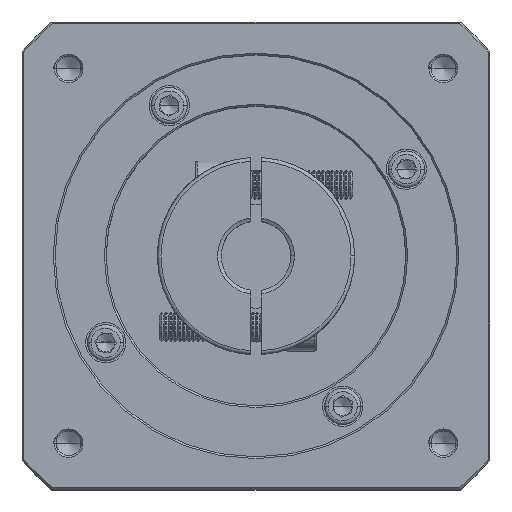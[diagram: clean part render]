
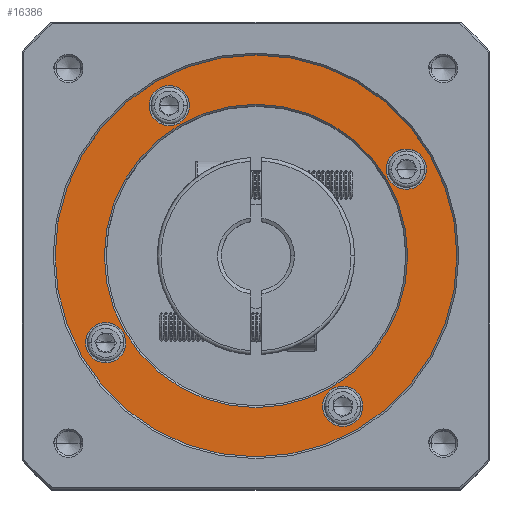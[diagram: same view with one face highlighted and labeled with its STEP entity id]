
A CAD part, top view. The second image highlights one B-rep face of the part: STEP entity #16386.
In plain terms, the highlighted planar face has unit normal (0, 0, 1).
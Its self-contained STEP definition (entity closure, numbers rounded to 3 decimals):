
#1256 = AXIS2_PLACEMENT_3D ( 'NONE', #20376, #86103, #29919 ) ;
#4469 = CARTESIAN_POINT ( 'NONE',  ( 91.927, 102.612, 75.911 ) ) ;
#4851 = CIRCLE ( 'NONE', #47583, 5.5 ) ;
#5516 = DIRECTION ( 'NONE',  ( 1., 0., 0. ) ) ;
#6007 = PLANE ( 'NONE',  #66882 ) ;
#6110 = ORIENTED_EDGE ( 'NONE', *, *, #116574, .T. ) ;
#6603 = ORIENTED_EDGE ( 'NONE', *, *, #67644, .T. ) ;
#8967 = CARTESIAN_POINT ( 'NONE',  ( 80.927, 102.612, 75.911 ) ) ;
#9175 = EDGE_LOOP ( 'NONE', ( #42292, #65851 ) ) ;
#9212 = EDGE_CURVE ( 'NONE', #17506, #23350, #20026, .T. ) ;
#10572 = EDGE_CURVE ( 'NONE', #102887, #36878, #61176, .T. ) ;
#10906 = AXIS2_PLACEMENT_3D ( 'NONE', #26588, #92148, #36014 ) ;
#11343 = FACE_BOUND ( 'NONE', #9175, .T. ) ;
#12413 = EDGE_CURVE ( 'NONE', #55793, #90963, #69289, .T. ) ;
#12597 = CIRCLE ( 'NONE', #120600, 55. ) ;
#13686 = CIRCLE ( 'NONE', #83461, 5.5 ) ;
#13951 = CIRCLE ( 'NONE', #40643, 41.5 ) ;
#15880 = DIRECTION ( 'NONE',  ( 0., 0., 1. ) ) ;
#16386 = ADVANCED_FACE ( 'NONE', ( #86276, #11343, #48147, #36401, #61236, #108231 ), #6007, .T. ) ;
#17506 = VERTEX_POINT ( 'NONE', #69029 ) ;
#18123 = DIRECTION ( 'NONE',  ( 0., 0., 1. ) ) ;
#19786 = CARTESIAN_POINT ( 'NONE',  ( 38.927, 184.884, 75.911 ) ) ;
#20026 = CIRCLE ( 'NONE', #62656, 5.5 ) ;
#20376 = CARTESIAN_POINT ( 'NONE',  ( 86.427, 102.612, 75.911 ) ) ;
#23350 = VERTEX_POINT ( 'NONE', #28005 ) ;
#24528 = EDGE_LOOP ( 'NONE', ( #59076, #85103 ) ) ;
#26588 = CARTESIAN_POINT ( 'NONE',  ( 86.427, 102.612, 75.911 ) ) ;
#26871 = VERTEX_POINT ( 'NONE', #40078 ) ;
#27560 = CIRCLE ( 'NONE', #95120, 5.5 ) ;
#28005 = CARTESIAN_POINT ( 'NONE',  ( 27.041, 119.998, 75.911 ) ) ;
#29293 = DIRECTION ( 'NONE',  ( 1., 0., 0. ) ) ;
#29919 = DIRECTION ( 'NONE',  ( 1., 0., 0. ) ) ;
#31385 = AXIS2_PLACEMENT_3D ( 'NONE', #41571, #107148, #50988 ) ;
#35140 = EDGE_LOOP ( 'NONE', ( #114747, #49532 ) ) ;
#36014 = DIRECTION ( 'NONE',  ( 1., 0., 0. ) ) ;
#36401 = FACE_BOUND ( 'NONE', #40548, .T. ) ;
#36878 = VERTEX_POINT ( 'NONE', #4469 ) ;
#37384 = DIRECTION ( 'NONE',  ( 0., 0., -1. ) ) ;
#40078 = CARTESIAN_POINT ( 'NONE',  ( 7.677, 143.748, 75.911 ) ) ;
#40548 = EDGE_LOOP ( 'NONE', ( #93121, #97895 ) ) ;
#40643 = AXIS2_PLACEMENT_3D ( 'NONE', #48398, #113951, #57818 ) ;
#41444 = DIRECTION ( 'NONE',  ( 0., 0., -1. ) ) ;
#41571 = CARTESIAN_POINT ( 'NONE',  ( 62.677, 143.748, 75.911 ) ) ;
#41927 = AXIS2_PLACEMENT_3D ( 'NONE', #110830, #54669, #120225 ) ;
#42292 = ORIENTED_EDGE ( 'NONE', *, *, #107759, .T. ) ;
#43429 = EDGE_LOOP ( 'NONE', ( #82813, #51161 ) ) ;
#43442 = CARTESIAN_POINT ( 'NONE',  ( 62.677, 102.248, 75.911 ) ) ;
#43559 = CARTESIAN_POINT ( 'NONE',  ( 103.813, 167.498, 75.911 ) ) ;
#46038 = EDGE_CURVE ( 'NONE', #72035, #79373, #4851, .T. ) ;
#47359 = CARTESIAN_POINT ( 'NONE',  ( 109.313, 167.498, 75.911 ) ) ;
#47583 = AXIS2_PLACEMENT_3D ( 'NONE', #107028, #50865, #116405 ) ;
#48147 = FACE_BOUND ( 'NONE', #24528, .T. ) ;
#48398 = CARTESIAN_POINT ( 'NONE',  ( 62.677, 143.748, 75.911 ) ) ;
#49165 = CARTESIAN_POINT ( 'NONE',  ( 117.677, 143.748, 75.911 ) ) ;
#49532 = ORIENTED_EDGE ( 'NONE', *, *, #9212, .T. ) ;
#50841 = EDGE_CURVE ( 'NONE', #23350, #17506, #13686, .T. ) ;
#50865 = DIRECTION ( 'NONE',  ( 0., 0., -1. ) ) ;
#50988 = DIRECTION ( 'NONE',  ( 1., 0., 0. ) ) ;
#51161 = ORIENTED_EDGE ( 'NONE', *, *, #102410, .T. ) ;
#53008 = DIRECTION ( 'NONE',  ( 1., 0., 0. ) ) ;
#54669 = DIRECTION ( 'NONE',  ( 0., 0., -1. ) ) ;
#55793 = VERTEX_POINT ( 'NONE', #94929 ) ;
#57818 = DIRECTION ( 'NONE',  ( 0., -1., 0. ) ) ;
#59076 = ORIENTED_EDGE ( 'NONE', *, *, #46038, .T. ) ;
#60939 = EDGE_CURVE ( 'NONE', #65111, #96005, #93263, .T. ) ;
#61176 = CIRCLE ( 'NONE', #10906, 5.5 ) ;
#61236 = FACE_BOUND ( 'NONE', #43429, .T. ) ;
#61760 = DIRECTION ( 'NONE',  ( 0., 0., -1. ) ) ;
#62656 = AXIS2_PLACEMENT_3D ( 'NONE', #117913, #61760, #5516 ) ;
#64765 = EDGE_LOOP ( 'NONE', ( #6110, #6603 ) ) ;
#65111 = VERTEX_POINT ( 'NONE', #72554 ) ;
#65851 = ORIENTED_EDGE ( 'NONE', *, *, #60939, .T. ) ;
#66882 = AXIS2_PLACEMENT_3D ( 'NONE', #72041, #15880, #81533 ) ;
#67644 = EDGE_CURVE ( 'NONE', #26871, #78108, #12597, .T. ) ;
#69029 = CARTESIAN_POINT ( 'NONE',  ( 16.041, 119.998, 75.911 ) ) ;
#69289 = CIRCLE ( 'NONE', #81904, 5.5 ) ;
#72035 = VERTEX_POINT ( 'NONE', #47359 ) ;
#72041 = CARTESIAN_POINT ( 'NONE',  ( 62.677, 143.748, 75.911 ) ) ;
#72554 = CARTESIAN_POINT ( 'NONE',  ( 62.677, 185.248, 75.911 ) ) ;
#73912 = EDGE_CURVE ( 'NONE', #79373, #72035, #27560, .T. ) ;
#74311 = CARTESIAN_POINT ( 'NONE',  ( 62.677, 143.748, 75.911 ) ) ;
#78108 = VERTEX_POINT ( 'NONE', #49165 ) ;
#79373 = VERTEX_POINT ( 'NONE', #89572 ) ;
#81533 = DIRECTION ( 'NONE',  ( 1., 0., 0. ) ) ;
#81904 = AXIS2_PLACEMENT_3D ( 'NONE', #93534, #37384, #102985 ) ;
#82813 = ORIENTED_EDGE ( 'NONE', *, *, #12413, .T. ) ;
#83461 = AXIS2_PLACEMENT_3D ( 'NONE', #97641, #41444, #107020 ) ;
#83755 = DIRECTION ( 'NONE',  ( 1., 0., 0. ) ) ;
#85103 = ORIENTED_EDGE ( 'NONE', *, *, #73912, .T. ) ;
#85488 = DIRECTION ( 'NONE',  ( 0., 0., -1. ) ) ;
#86103 = DIRECTION ( 'NONE',  ( 0., 0., -1. ) ) ;
#86276 = FACE_OUTER_BOUND ( 'NONE', #64765, .T. ) ;
#87300 = CIRCLE ( 'NONE', #1256, 5.5 ) ;
#88654 = CARTESIAN_POINT ( 'NONE',  ( 33.427, 184.884, 75.911 ) ) ;
#89572 = CARTESIAN_POINT ( 'NONE',  ( 98.313, 167.498, 75.911 ) ) ;
#89770 = EDGE_CURVE ( 'NONE', #36878, #102887, #87300, .T. ) ;
#90963 = VERTEX_POINT ( 'NONE', #88654 ) ;
#92148 = DIRECTION ( 'NONE',  ( 0., 0., -1. ) ) ;
#93121 = ORIENTED_EDGE ( 'NONE', *, *, #89770, .T. ) ;
#93263 = CIRCLE ( 'NONE', #41927, 41.5 ) ;
#93534 = CARTESIAN_POINT ( 'NONE',  ( 38.927, 184.884, 75.911 ) ) ;
#94153 = AXIS2_PLACEMENT_3D ( 'NONE', #19786, #85488, #29293 ) ;
#94929 = CARTESIAN_POINT ( 'NONE',  ( 44.427, 184.884, 75.911 ) ) ;
#95120 = AXIS2_PLACEMENT_3D ( 'NONE', #43559, #109161, #53008 ) ;
#96005 = VERTEX_POINT ( 'NONE', #43442 ) ;
#97641 = CARTESIAN_POINT ( 'NONE',  ( 21.541, 119.998, 75.911 ) ) ;
#97895 = ORIENTED_EDGE ( 'NONE', *, *, #10572, .T. ) ;
#102410 = EDGE_CURVE ( 'NONE', #90963, #55793, #112031, .T. ) ;
#102887 = VERTEX_POINT ( 'NONE', #8967 ) ;
#102985 = DIRECTION ( 'NONE',  ( 1., 0., 0. ) ) ;
#107020 = DIRECTION ( 'NONE',  ( 1., 0., 0. ) ) ;
#107028 = CARTESIAN_POINT ( 'NONE',  ( 103.813, 167.498, 75.911 ) ) ;
#107148 = DIRECTION ( 'NONE',  ( 0., 0., 1. ) ) ;
#107759 = EDGE_CURVE ( 'NONE', #96005, #65111, #13951, .T. ) ;
#108231 = FACE_BOUND ( 'NONE', #35140, .T. ) ;
#109161 = DIRECTION ( 'NONE',  ( 0., 0., -1. ) ) ;
#110830 = CARTESIAN_POINT ( 'NONE',  ( 62.677, 143.748, 75.911 ) ) ;
#112031 = CIRCLE ( 'NONE', #94153, 5.5 ) ;
#113951 = DIRECTION ( 'NONE',  ( 0., 0., -1. ) ) ;
#114747 = ORIENTED_EDGE ( 'NONE', *, *, #50841, .T. ) ;
#116405 = DIRECTION ( 'NONE',  ( 1., 0., 0. ) ) ;
#116574 = EDGE_CURVE ( 'NONE', #78108, #26871, #121916, .T. ) ;
#117913 = CARTESIAN_POINT ( 'NONE',  ( 21.541, 119.998, 75.911 ) ) ;
#120225 = DIRECTION ( 'NONE',  ( 0., -1., 0. ) ) ;
#120600 = AXIS2_PLACEMENT_3D ( 'NONE', #74311, #18123, #83755 ) ;
#121916 = CIRCLE ( 'NONE', #31385, 55. ) ;
